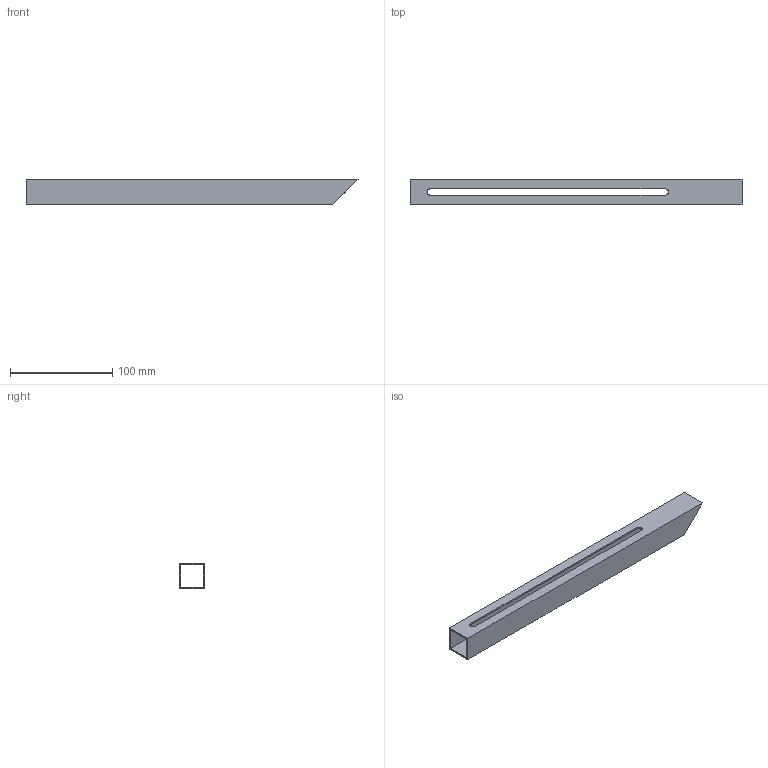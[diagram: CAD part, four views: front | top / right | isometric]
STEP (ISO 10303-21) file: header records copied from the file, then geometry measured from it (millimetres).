
FILE_DESCRIPTION(/* description */ ('(C) Elphel, Inc. 2012. Licensed under CERN OHL v.1.1 or later, see http://ohwr.org/cernohl'),/* implementation_level */ '2;1');
FILE_NAME(/* name */ '0353-25-212B',/* time_stamp */ '2012-06-08T12:40:38-06:00',/* author */ (''),/* organization */ ('Elphel, Inc'),/* preprocessor_version */ 'ST-DEVELOPER v12',/* originating_system */ 'VariCAD 2012-1.04; kernel version (20100102)',/* authorisation */ '');
FILE_SCHEMA (('AUTOMOTIVE_DESIGN'));
Length unit declared in the file: millimetre
Products named in the file (1): Part
Bounding box: 325.4 x 25.4 x 25.4 mm (x, y, z)
Volume: 39934.6 mm3; surface area: 52233.6 mm2
Topology: 1 solids, 1 shells, 18 faces, 48 edges, 32 vertices
Faces by surface type: plane 14, cylinder 4
Entity records: 599 total; most frequent: CARTESIAN_POINT 100, ORIENTED_EDGE 96, DIRECTION 96, EDGE_CURVE 48, LINE 40, VECTOR 40, VERTEX_POINT 32, AXIS2_PLACEMENT_3D 28
